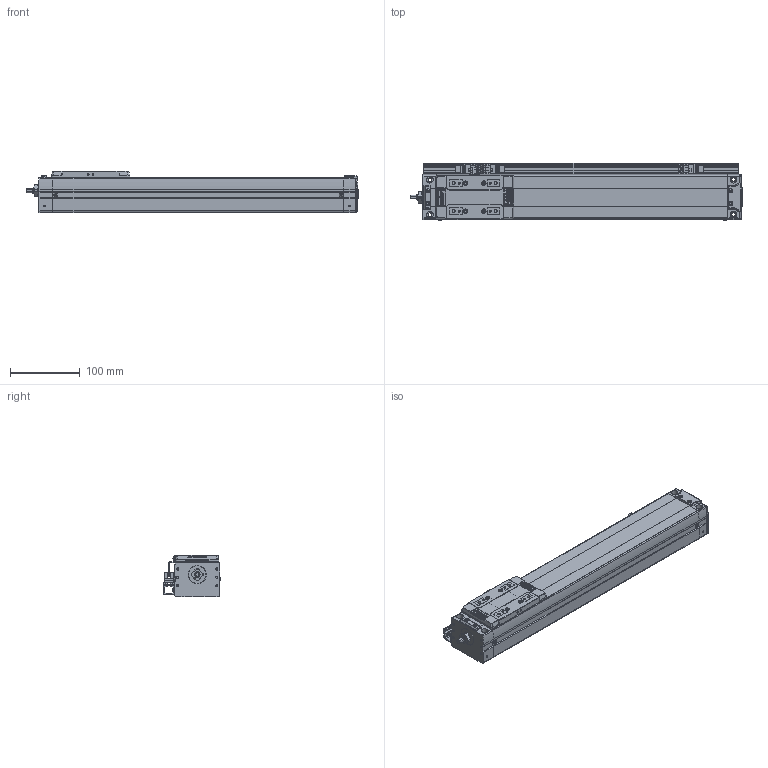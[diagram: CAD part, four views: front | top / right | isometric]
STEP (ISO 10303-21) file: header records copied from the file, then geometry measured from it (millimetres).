
FILE_DESCRIPTION(('STEP AP214'),'1');
FILE_NAME('Z:/Web/3D/SAN65/STP/SAN65ㅁㅁ-300+3SL.stp','2012-06-14T05:05:41',(' '),(' '),'Spatial InterOp 3D',' ',' ');
FILE_SCHEMA(('automotive_design'));
Length unit declared in the file: metre
Products named in the file (51): SAN65__-300; BODY-SAN65; REAR-SAN65; RRCV-SAN65; 스크루 : Round - M3.0 x 6.0; FRONT-SAN65; SHAFT-SAN65; RN8 x 0.75; SSFX-SAN65; SLIDE-SAN65; SLCV-SAN65; 스크루 : Countersunk - M3.0 x 6.0; ____196; 3SL; SRL-16x17-450L; - OT; EE-SX674; SBK-SX674-352; HOME; + OT; DOG; SDG-SAN65; 스크루 : Round - M3.0 x 5.0
Assembly tree (50 placements, depth 4):
  ____196
    SAN65__-300
      BODY-SAN65
      REAR-SAN65
        REAR-SAN65
        RRCV-SAN65
        스크루 : Round - M3.0 x 6.0
        스크루 : Round - M3.0 x 6.0
        스크루 : Round - M3.0 x 6.0
        스크루 : Round - M3.0 x 6.0
        스크루 : Round - M3.0 x 6.0
        스크루 : Round - M3.0 x 6.0
      FRONT-SAN65
        FRONT-SAN65
        SHAFT-SAN65
        RN8 x 0.75
        SSFX-SAN65
        스크루 : Round - M3.0 x 6.0
        스크루 : Round - M3.0 x 6.0
        스크루 : Round - M3.0 x 6.0
        스크루 : Round - M3.0 x 6.0
      SLIDE-SAN65
        SLIDE-SAN65
        SLCV-SAN65
        스크루 : Countersunk - M3.0 x 6.0
        스크루 : Countersunk - M3.0 x 6.0
        스크루 : Countersunk - M3.0 x 6.0
        스크루 : Countersunk - M3.0 x 6.0
    3SL
      SRL-16x17-450L
      스크루 : Round - M3.0 x 6.0
      스크루 : Round - M3.0 x 6.0
      - OT
        EE-SX674
        SBK-SX674-352
        스크루 : Round - M3.0 x 6.0
        스크루 : Round - M3.0 x 6.0
      HOME
        EE-SX674
        SBK-SX674-352
        스크루 : Round - M3.0 x 6.0
        스크루 : Round - M3.0 x 6.0
      + OT
        EE-SX674
        SBK-SX674-352
        스크루 : Round - M3.0 x 6.0
        스크루 : Round - M3.0 x 6.0
      DOG
        SDG-SAN65
        스크루 : Round - M3.0 x 5.0
        스크루 : Round - M3.0 x 5.0
Bounding box: 474.65 x 82.06 x 60 mm (x, y, z)
Volume: 1523476.7 mm3; surface area: 243746 mm2
Topology: 41 solids, 41 shells, 1873 faces, 4818 edges, 3146 vertices
Faces by surface type: plane 1244, cylinder 466, cone 87, sphere 32, bspline 26, torus 15, extrusion 3
Full cylindrical faces by diameter (mm): 0.571 x2, 0.706 x1, 1.727 x2, 2.132 x1, 2.2 x4, 2.5 x15, 2.528 x4, 3 x6, 3.121 x2, 3.3 x4, 3.4 x4, 3.5 x14, 4.2 x26, 4.849 x4, 5 x2, 5.5 x4, 5.987 x2, 6 x6, 6.5 x2, 7 x1, 8 x4, 9.5 x4, 13 x1, 15 x1, 19 x1
Entity records: 75691 total; most frequent: CARTESIAN_POINT 14306, DIRECTION 9435, ORIENTED_EDGE 9020, EDGE_CURVE 4510, VECTOR 3213, LINE 3210, AXIS2_PLACEMENT_3D 3111, VERTEX_POINT 3086
